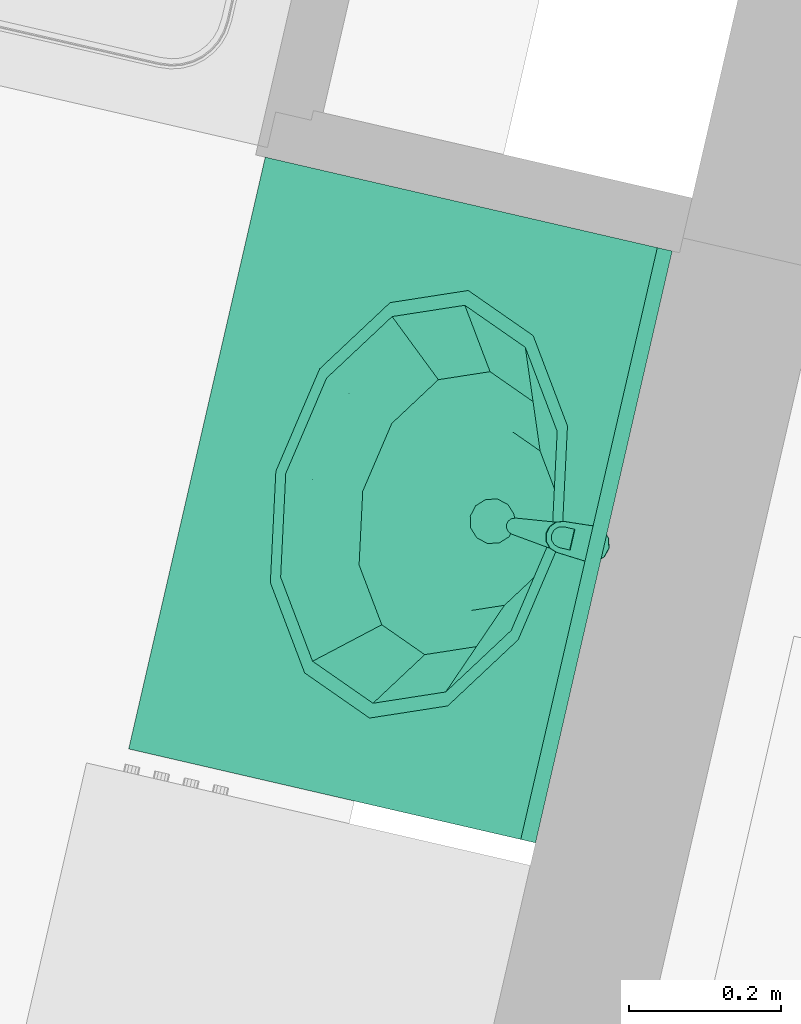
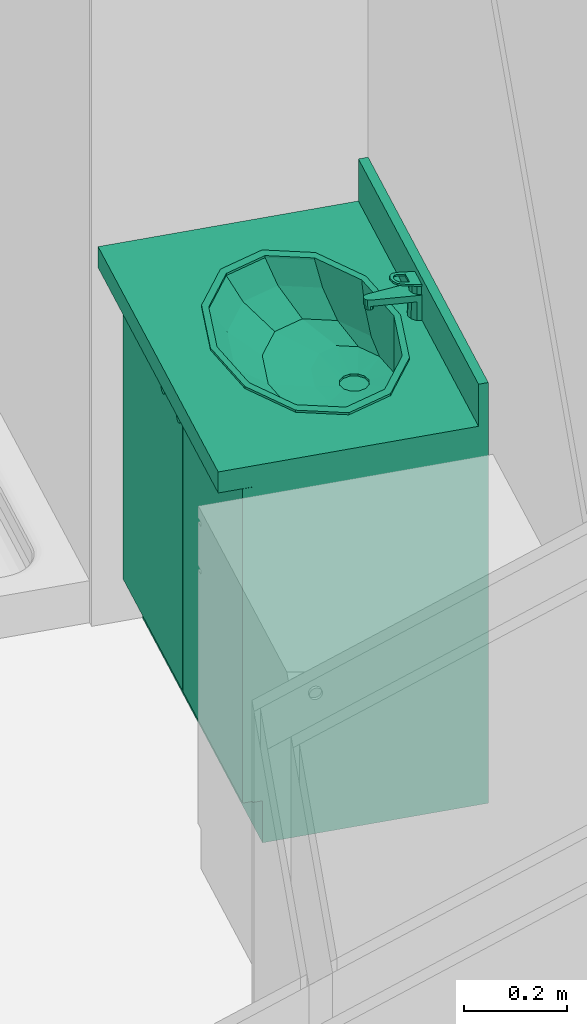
# One storey, part 99 of 119: 1 flow terminal.
"""IFC2X3 building model written with IfcOpenShell, lengths in metres."""

import ifcopenshell
import ifcopenshell.guid

model = None  # the IFC model being written
_history = None  # IfcOwnerHistory: only IFC2X3 demands one
_inside = {}  # id of a spatial element -> (the spatial element, [elements in it])
_under = {}  # id of a project, library or spatial element -> (it, [spatial elements below it])
_declared = {}  # id of a project -> (the project, [libraries it declares])
_typed = {}  # id of a type object -> (the type object, [elements of that type])
_made_of = {}  # id of a material, layer set ... -> (it, [elements and type objects made of it])


def new_model(schema):
    """Start an empty IFC model of exactly this schema.

    Asked for "IFC4X3", IfcOpenShell would pick the latest addendum, in which some entities
    have other attributes; the version numbers below select the first issue.
    IFC2X3 requires an IfcOwnerHistory on every rooted entity: one is made here for all.
    """
    global model, _history
    if schema == "IFC4X3":
        model = ifcopenshell.file(schema_version=(4, 3, 0, 0))
    else:
        model = ifcopenshell.file(schema=schema)
    _inside.clear()
    _under.clear()
    _declared.clear()
    _typed.clear()
    _made_of.clear()
    _history = None
    if model.schema == "IFC2X3":
        org = make("IfcOrganization", Name="unknown")
        user = make(
            "IfcPersonAndOrganization",
            ThePerson=make("IfcPerson", FamilyName="unknown"),
            TheOrganization=org,
        )
        app = make(
            "IfcApplication",
            ApplicationDeveloper=org,
            Version="unknown",
            ApplicationFullName="unknown",
            ApplicationIdentifier="unknown",
        )
        _history = make(
            "IfcOwnerHistory",
            OwningUser=user,
            OwningApplication=app,
            ChangeAction="ADDED",
            CreationDate=0,
        )
    return model


def make(cls, **values):
    """One entity of the class cls with the attributes given. An attribute that is None is left unset."""
    return model.create_entity(
        cls, **{name: value for name, value in values.items() if value is not None}
    )


def entity(cls, *values):
    """Any entity or typed value of the class cls, its attributes in the order of the schema. None: left unset."""
    e = model.create_entity(cls)
    for i, value in enumerate(values):
        if value is not None:
            e[i] = value
    return e


def rooted(cls, **values):
    """An entity with a GlobalId (a new one), such as an element, a storey or a relation."""
    return make(cls, GlobalId=ifcopenshell.guid.new(), OwnerHistory=_history, **values)


def si_unit(unit_type, name, prefix=None):
    """IfcSIUnit, for example si_unit("LENGTHUNIT", "METRE", prefix="MILLI")."""
    return make("IfcSIUnit", UnitType=unit_type, Prefix=prefix, Name=name)


def converted_unit(unit_type, name, factor, base, dimensions=None, offset=None):
    """IfcConversionBasedUnit, such as the inch: factor (a typed value) times the base unit."""
    return make(
        "IfcConversionBasedUnit"
        if offset is None
        else "IfcConversionBasedUnitWithOffset",
        ConversionOffset=offset,
        Dimensions=None
        if dimensions is None
        else entity("IfcDimensionalExponents", *dimensions),
        UnitType=unit_type,
        Name=name,
        ConversionFactor=make(
            "IfcMeasureWithUnit", ValueComponent=factor, UnitComponent=base
        ),
    )


def derived_unit(unit_type, elements):
    """IfcDerivedUnit: a product of units, each with its exponent."""
    return make(
        "IfcDerivedUnit",
        Elements=[
            make("IfcDerivedUnitElement", Unit=unit, Exponent=power)
            for unit, power in elements
        ],
        UnitType=unit_type,
    )


def money_unit(currency):
    """IfcMonetaryUnit."""
    return make("IfcMonetaryUnit", Currency=currency)


def assignment(units):
    """IfcUnitAssignment: the units of a project."""
    return None if units is None else make("IfcUnitAssignment", Units=units)


def point(xyz):
    """IfcCartesianPoint."""
    return None if xyz is None else make("IfcCartesianPoint", Coordinates=xyz)


def direction(xyz):
    """IfcDirection."""
    return None if xyz is None else make("IfcDirection", DirectionRatios=xyz)


def frame(location, z_axis=None, x_axis=None):
    """IfcAxis2Placement3D, a coordinate frame: its origin and axes. An axis left out is left unset."""
    return make(
        "IfcAxis2Placement3D",
        Location=point(location),
        Axis=direction(z_axis),
        RefDirection=direction(x_axis),
    )


def origin_with_axes():
    """The frame at (0, 0, 0) with the z axis (0, 0, 1) and the x axis (1, 0, 0) written out."""
    return frame((0.0, 0.0, 0.0), z_axis=(0.0, 0.0, 1.0), x_axis=(1.0, 0.0, 0.0))


def place(relative_to, where):
    """IfcLocalPlacement: puts the frame where relative to a parent placement (None: the world)."""
    return make(
        "IfcLocalPlacement", PlacementRelTo=relative_to, RelativePlacement=where
    )


def context(
    kind, dimensions, precision=None, world=None, true_north=None, identifier=None
):
    """IfcGeometricRepresentationContext, for example the 3D "Model" context."""
    return make(
        "IfcGeometricRepresentationContext",
        ContextIdentifier=identifier,
        ContextType=kind,
        CoordinateSpaceDimension=dimensions,
        Precision=precision,
        WorldCoordinateSystem=world,
        TrueNorth=true_north,
    )


def subcontext(parent, identifier, kind, view, scale=None):
    """IfcGeometricRepresentationSubContext, for example "Body" below "Model"."""
    return make(
        "IfcGeometricRepresentationSubContext",
        ContextIdentifier=identifier,
        ContextType=kind,
        ParentContext=parent,
        TargetScale=scale,
        TargetView=view,
    )


def project(units=None, contexts=None):
    """IfcProject with its units and contexts."""
    return rooted(
        "IfcProject",
        Name="project",
        RepresentationContexts=contexts,
        UnitsInContext=assignment(units),
    )


def spatial(cls, under=None, at=None, **own):
    """A site, building, storey or space (cls), placed at a placement, below another one or the project."""
    s = rooted(cls, ObjectPlacement=at, **own)
    if under is not None:
        _under.setdefault(under.id(), (under, []))[1].append(s)
    return s


def faces_of(points, faces, orient=None, outer=None):
    """IfcFace entities. A face is a list of loops; a loop is a list of indices into points, from 0.

    orient and outer hold one flag for each loop. By default every Orientation is true, the
    first loop of a face is its IfcFaceOuterBound and the others are IfcFaceBound.
    """
    made = []
    for i, loops in enumerate(faces):
        bounds = []
        for j, loop in enumerate(loops):
            is_outer = j == 0 if outer is None else outer[i][j]
            bounds.append(
                make(
                    "IfcFaceOuterBound" if is_outer else "IfcFaceBound",
                    Bound=make("IfcPolyLoop", Polygon=[points[k] for k in loop]),
                    Orientation=True if orient is None else orient[i][j],
                )
            )
        made.append(make("IfcFace", Bounds=bounds))
    return made


def open_shell(faces, orient=None, outer=None):
    """The faces of one IfcOpenShell. surface_model builds it on its shared points."""
    return ("IfcOpenShell", faces, orient, outer)


def faceted_brep(points, faces, orient=None, outer=None, voids=None):
    """IfcFacetedBrep: a solid bounded by flat faces; with voids (closed shells), ...WithVoids."""
    shared = [point(p) for p in points]
    hull = make("IfcClosedShell", CfsFaces=faces_of(shared, faces, orient, outer))
    if voids is None:
        return make("IfcFacetedBrep", Outer=hull)
    return make(
        "IfcFacetedBrepWithVoids",
        Outer=hull,
        Voids=[
            make(cls, CfsFaces=faces_of(shared, fs, o, b)) for cls, fs, o, b in voids
        ],
    )


def surface_model(cls, points, shells):
    """IfcFaceBasedSurfaceModel or IfcShellBasedSurfaceModel (cls): surfaces that need not close."""
    shared = [point(p) for p in points]
    made = [make(c, CfsFaces=faces_of(shared, fs, o, b)) for c, fs, o, b in shells]
    if cls == "IfcFaceBasedSurfaceModel":
        return make(cls, FbsmFaces=made)
    return make(cls, SbsmBoundary=made)


def shape(context_of_items, identifier, shape_type, items):
    """IfcShapeRepresentation: the items that make up one representation, for example the "Body"."""
    return make(
        "IfcShapeRepresentation",
        ContextOfItems=context_of_items,
        RepresentationIdentifier=identifier,
        RepresentationType=shape_type,
        Items=items,
    )


def source(mapping_origin, context_of_items, identifier, shape_type, items):
    """IfcRepresentationMap: a shape defined once, which mapped items show again and again."""
    return make(
        "IfcRepresentationMap",
        MappingOrigin=mapping_origin,
        MappedRepresentation=shape(context_of_items, identifier, shape_type, items),
    )


def transform(
    local_origin,
    x_axis=None,
    y_axis=None,
    z_axis=None,
    scale=None,
    scale2=None,
    scale3=None,
    uniform=True,
):
    """IfcCartesianTransformationOperator3D, or its non-uniform kind. x_axis, y_axis, z_axis: its Axis1, 2, 3."""
    if uniform:
        return make(
            "IfcCartesianTransformationOperator3D",
            Axis1=direction(x_axis),
            Axis2=direction(y_axis),
            LocalOrigin=point(local_origin),
            Scale=scale,
            Axis3=direction(z_axis),
        )
    return make(
        "IfcCartesianTransformationOperator3DnonUniform",
        Axis1=direction(x_axis),
        Axis2=direction(y_axis),
        LocalOrigin=point(local_origin),
        Scale=scale,
        Axis3=direction(z_axis),
        Scale2=scale2,
        Scale3=scale3,
    )


def mapped(mapping_source, mapping_target):
    """IfcMappedItem: shows the shape of a source again, moved by a transform."""
    return make(
        "IfcMappedItem", MappingSource=mapping_source, MappingTarget=mapping_target
    )


def made_of(thing, what):
    """Note that an element or type object is made of a material, layer set ...; save() writes the relation."""
    if what is not None:
        _made_of.setdefault(what.id(), (what, []))[1].append(thing)
    return thing


def type_object(cls, material=None, **own):
    """A type object (cls), such as IfcWallType, which elements share."""
    return made_of(rooted(cls, **own), material)


def element(
    cls,
    number,
    at=None,
    inside=None,
    cuts=None,
    type_object=None,
    material=None,
    context=None,
    identifier="Body",
    shape_type=None,
    held_by="IfcProductDefinitionShape",
    body=None,
    shapes=None,
    **own,
):
    """One element of the class cls, such as IfcWall. Its Tag is "e" and its number.

    at: its placement. inside: the storey or other place that contains it. cuts: it is an
    opening in that element (IfcRelVoidsElement). A single representation is given by context,
    identifier, shape_type and body (its items); several are given by shapes. held_by: the class
    of the entity that holds the representations. save() writes the other relations.
    """
    e = rooted(cls, Tag="e%d" % number, ObjectPlacement=at, **own)
    if body is not None:
        shapes = [shape(context, identifier, shape_type, body)]
    if shapes is not None:
        e.Representation = make(held_by, Representations=shapes)
    if inside is not None:
        _inside.setdefault(inside.id(), (inside, []))[1].append(e)
    if cuts is not None:
        rooted(
            "IfcRelVoidsElement", RelatingBuildingElement=cuts, RelatedOpeningElement=e
        )
    if type_object is not None:
        _typed.setdefault(type_object.id(), (type_object, []))[1].append(e)
    return made_of(e, material)


def aggregate(whole, parts):
    """IfcRelAggregates: a whole, such as a stair, and the parts it consists of."""
    return rooted("IfcRelAggregates", RelatingObject=whole, RelatedObjects=parts)


def save(model, path):
    """Write the relations noted so far, then the file.

    IfcRelAggregates (storeys below a building ...), IfcRelContainedInSpatialStructure (elements
    in a storey), IfcRelDefinesByType, IfcRelAssociatesMaterial and IfcRelDeclares: one each for
    every whole, place, type object, material and project.
    """
    for whole, parts in _under.values():
        aggregate(whole, parts)
    for where, things in _inside.values():
        rooted(
            "IfcRelContainedInSpatialStructure",
            RelatedElements=things,
            RelatingStructure=where,
        )
    for kind, things in _typed.values():
        rooted("IfcRelDefinesByType", RelatedObjects=things, RelatingType=kind)
    for what, things in _made_of.values():
        rooted("IfcRelAssociatesMaterial", RelatedObjects=things, RelatingMaterial=what)
    for by, libraries in _declared.values():
        rooted("IfcRelDeclares", RelatingContext=by, RelatedDefinitions=libraries)
    model.write(path)


model = new_model("IFC2X3")

# Units and contexts
model_context = context("Model", 3, precision=1e-05, world=origin_with_axes(), true_north=direction((0.0, 1.0)))
body_context = subcontext(model_context, "Body", "Model", "MODEL_VIEW")
ifc_project = project(units=[si_unit("LENGTHUNIT", "METRE"), si_unit("AREAUNIT", "SQUARE_METRE"), si_unit("VOLUMEUNIT", "CUBIC_METRE"), converted_unit("PLANEANGLEUNIT", "DEGREE", entity("IfcPlaneAngleMeasure", 0.0174532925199), si_unit("PLANEANGLEUNIT", "RADIAN"), dimensions=[0, 0, 0, 0, 0, 0, 0]), si_unit("SOLIDANGLEUNIT", "STERADIAN"), money_unit("EUR"), converted_unit("TIMEUNIT", "Year", entity("IfcTimeMeasure", 31556926.0), si_unit("TIMEUNIT", "SECOND"), dimensions=[0, 0, 1, 0, 0, 0, 0]), si_unit("MASSUNIT", "GRAM", prefix="KILO"), si_unit("THERMODYNAMICTEMPERATUREUNIT", "DEGREE_CELSIUS"), si_unit("LUMINOUSINTENSITYUNIT", "LUMEN"), si_unit("ENERGYUNIT", "JOULE", prefix="MEGA"), derived_unit("THERMALCONDUCTANCEUNIT", [(si_unit("POWERUNIT", "WATT"), 1), (si_unit("LENGTHUNIT", "METRE"), -1), (si_unit("THERMODYNAMICTEMPERATUREUNIT", "KELVIN"), -1)]), derived_unit("SPECIFICHEATCAPACITYUNIT", [(si_unit("ENERGYUNIT", "JOULE"), 1), (si_unit("MASSUNIT", "GRAM", prefix="KILO"), -1), (si_unit("THERMODYNAMICTEMPERATUREUNIT", "KELVIN"), -1)]), derived_unit("MASSDENSITYUNIT", [(si_unit("MASSUNIT", "GRAM", prefix="KILO"), 1), (si_unit("VOLUMEUNIT", "CUBIC_METRE"), -1)])], contexts=[model_context])

# Site, building, storey
site_placement = place(None, origin_with_axes())
site = spatial("IfcSite", under=ifc_project, at=site_placement, Name="Site", CompositionType="ELEMENT")
building_placement = place(site_placement, origin_with_axes())
building = spatial("IfcBuilding", under=site, at=building_placement, Name="Bâtiment", CompositionType="ELEMENT")
storey_placement = place(building_placement, origin_with_axes())
storey = spatial("IfcBuildingStorey", under=building, at=storey_placement, Name="Rez-de-chaussée", CompositionType="ELEMENT", Elevation=0.0)

# Flow terminal
sanitary_terminal_type = type_object("IfcSanitaryTerminalType", Name="Lavabo sur meuble 23", PredefinedType="NOTDEFINED")
shared_shape = source(origin_with_axes(), body_context, "Body", "SurfaceModel", [
    faceted_brep([(0.0, 0.09, 0.0), (0.0, 0.09, 0.1), (-0.8, 0.09, 0.1), (-0.8, 0.09, 0.0), (0.0, 0.55, 0.0), (0.0, 0.55, 0.1), (-0.8, 0.55, 0.1), (-0.8, 0.55, 0.0)], [[[0, 1, 2, 3]], [[4, 5, 1, 0]], [[1, 5, 6, 2]], [[3, 2, 6, 7]], [[0, 3, 7, 4]], [[7, 6, 5, 4]]]),
    faceted_brep([(0.0, 0.07, 0.1), (0.0, 0.07, 0.12), (-0.02, 0.07, 0.12), (-0.02, 0.07, 0.1), (0.0, 0.55, 0.1), (0.0, 0.55, 0.12), (-0.02, 0.55, 0.12), (-0.78, 0.55, 0.12), (-0.8, 0.55, 0.12), (-0.8, 0.07, 0.12), (-0.78, 0.07, 0.12), (-0.78, 0.07, 0.1), (-0.8, 0.07, 0.1), (-0.8, 0.55, 0.1), (-0.78, 0.55, 0.1), (-0.02, 0.55, 0.1)], [[[0, 1, 2, 3]], [[4, 5, 1, 0]], [[1, 5, 6, 7, 8, 9, 10, 2]], [[3, 2, 10, 11]], [[0, 3, 11, 12, 13, 14, 15, 4]], [[15, 6, 5, 4]], [[14, 7, 6, 15]], [[13, 8, 7, 14]], [[12, 9, 8, 13]], [[11, 10, 9, 12]]]),
    faceted_brep([(0.0, 0.07, 0.12), (0.0, 0.07, 0.85), (-0.02, 0.07, 0.85), (-0.02, 0.07, 0.12), (0.0, 0.55, 0.12), (0.0, 0.55, 0.85), (-0.8, 0.55, 0.85), (-0.8, 0.07, 0.85), (-0.78, 0.07, 0.85), (-0.78, 0.53, 0.85), (-0.02, 0.53, 0.85), (-0.02, 0.53, 0.12), (-0.78, 0.53, 0.12), (-0.78, 0.07, 0.12), (-0.8, 0.07, 0.12), (-0.8, 0.55, 0.12)], [[[0, 1, 2, 3]], [[4, 5, 1, 0]], [[1, 5, 6, 7, 8, 9, 10, 2]], [[3, 2, 10, 11]], [[0, 3, 11, 12, 13, 14, 15, 4]], [[15, 6, 5, 4]], [[14, 7, 6, 15]], [[13, 8, 7, 14]], [[12, 9, 8, 13]], [[11, 10, 9, 12]]]),
    faceted_brep([(-0.78, 0.07, 0.323333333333), (-0.78, 0.07, 0.343333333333), (-0.78, 0.53, 0.343333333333), (-0.78, 0.53, 0.323333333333), (-0.02, 0.07, 0.323333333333), (-0.02, 0.07, 0.343333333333), (-0.02, 0.53, 0.343333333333), (-0.02, 0.53, 0.323333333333)], [[[0, 1, 2, 3]], [[4, 5, 1, 0]], [[1, 5, 6, 2]], [[3, 2, 6, 7]], [[0, 3, 7, 4]], [[7, 6, 5, 4]]]),
    faceted_brep([(-0.78, 0.07, 0.566666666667), (-0.78, 0.07, 0.586666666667), (-0.78, 0.53, 0.586666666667), (-0.78, 0.53, 0.566666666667), (-0.02, 0.07, 0.566666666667), (-0.02, 0.07, 0.586666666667), (-0.02, 0.53, 0.586666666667), (-0.02, 0.53, 0.566666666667)], [[[0, 1, 2, 3]], [[4, 5, 1, 0]], [[1, 5, 6, 2]], [[3, 2, 6, 7]], [[0, 3, 7, 4]], [[7, 6, 5, 4]]]),
    faceted_brep([(0.0, 0.55, 0.85), (0.0, 0.0, 0.85), (-0.8, 0.0, 0.85), (-0.8, 0.55, 0.85), (-0.535, 0.144115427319, 0.85), (-0.4, 0.12, 0.85), (-0.265, 0.144115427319, 0.85), (-0.166173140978, 0.21, 0.85), (-0.13, 0.3, 0.85), (-0.166173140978, 0.39, 0.85), (-0.265, 0.455884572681, 0.85), (-0.4, 0.48, 0.85), (-0.535, 0.455884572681, 0.85), (-0.633826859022, 0.39, 0.85), (-0.67, 0.3, 0.85), (-0.633826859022, 0.21, 0.85), (0.0, 0.55, 0.9), (0.0, 0.0, 0.9), (-0.8, 0.0, 0.9), (-0.8, 0.55, 0.9), (-0.4, 0.12, 0.9), (-0.535, 0.144115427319, 0.9), (-0.265, 0.144115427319, 0.9), (-0.166173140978, 0.21, 0.9), (-0.13, 0.3, 0.9), (-0.166173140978, 0.39, 0.9), (-0.265, 0.455884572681, 0.9), (-0.4, 0.48, 0.9), (-0.535, 0.455884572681, 0.9), (-0.633826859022, 0.39, 0.9), (-0.67, 0.3, 0.9), (-0.633826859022, 0.21, 0.9)], [[[0, 1, 2, 3], [4, 5, 6, 7, 8, 9, 10, 11, 12, 13, 14, 15]], [[1, 0, 16, 17]], [[2, 1, 17, 18]], [[3, 2, 18, 19]], [[0, 3, 19, 16]], [[20, 5, 4, 21]], [[22, 6, 5, 20]], [[23, 7, 6, 22]], [[24, 8, 7, 23]], [[25, 9, 8, 24]], [[26, 10, 9, 25]], [[27, 11, 10, 26]], [[28, 12, 11, 27]], [[29, 13, 12, 28]], [[30, 14, 13, 29]], [[31, 15, 14, 30]], [[21, 4, 15, 31]], [[18, 17, 16, 19], [28, 27, 26, 25, 24, 23, 22, 20, 21, 31, 30, 29]]]),
    faceted_brep([(0.0, 0.53, 0.9), (0.0, 0.53, 1.0), (-0.8, 0.53, 1.0), (-0.8, 0.53, 0.9), (0.0, 0.55, 0.9), (0.0, 0.55, 1.0), (-0.8, 0.55, 1.0), (-0.8, 0.55, 0.9)], [[[0, 1, 2, 3]], [[4, 5, 1, 0]], [[1, 5, 6, 2]], [[3, 2, 6, 7]], [[0, 3, 7, 4]], [[7, 6, 5, 4]]]),
    faceted_brep([(-0.689, 0.3, 0.905), (-0.650281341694, 0.396691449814, 0.905), (-0.650281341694, 0.396691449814, 0.9), (-0.689, 0.3, 0.9), (-0.650281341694, 0.203308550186, 0.905), (-0.5445, 0.132525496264, 0.905), (-0.4, 0.106617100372, 0.905), (-0.2555, 0.132525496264, 0.905), (-0.149718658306, 0.203308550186, 0.905), (-0.111, 0.3, 0.905), (-0.149718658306, 0.396691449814, 0.905), (-0.2555, 0.467474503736, 0.905), (-0.4, 0.493382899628, 0.905), (-0.5445, 0.467474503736, 0.905), (-0.669, 0.3, 0.905), (-0.632960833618, 0.39, 0.905), (-0.5345, 0.455884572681, 0.905), (-0.4, 0.48, 0.905), (-0.2655, 0.455884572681, 0.905), (-0.167039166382, 0.39, 0.905), (-0.131, 0.3, 0.905), (-0.167039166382, 0.21, 0.905), (-0.2655, 0.144115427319, 0.905), (-0.4, 0.12, 0.905), (-0.5345, 0.144115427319, 0.905), (-0.632960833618, 0.21, 0.905), (-0.5445, 0.467474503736, 0.9), (-0.4, 0.493382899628, 0.9), (-0.2555, 0.467474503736, 0.9), (-0.149718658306, 0.396691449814, 0.9), (-0.111, 0.3, 0.9), (-0.149718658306, 0.203308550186, 0.9), (-0.2555, 0.132525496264, 0.9), (-0.4, 0.106617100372, 0.9), (-0.5445, 0.132525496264, 0.9), (-0.650281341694, 0.203308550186, 0.9), (-0.669, 0.3, 0.9), (-0.632960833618, 0.21, 0.9), (-0.5345, 0.144115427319, 0.9), (-0.4, 0.12, 0.9), (-0.2655, 0.144115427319, 0.9), (-0.167039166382, 0.21, 0.9), (-0.131, 0.3, 0.9), (-0.167039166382, 0.39, 0.9), (-0.2655, 0.455884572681, 0.9), (-0.4, 0.48, 0.9), (-0.5345, 0.455884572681, 0.9), (-0.632960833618, 0.39, 0.9)], [[[0, 1, 2, 3]], [[0, 4, 5, 6, 7, 8, 9, 10, 11, 12, 13, 1], [14, 15, 16, 17, 18, 19, 20, 21, 22, 23, 24, 25]], [[1, 13, 26, 2]], [[3, 2, 26, 27, 28, 29, 30, 31, 32, 33, 34, 35], [36, 37, 38, 39, 40, 41, 42, 43, 44, 45, 46, 47]], [[4, 0, 3, 35]], [[5, 4, 35, 34]], [[6, 5, 34, 33]], [[7, 6, 33, 32]], [[8, 7, 32, 31]], [[9, 8, 31, 30]], [[10, 9, 30, 29]], [[11, 10, 29, 28]], [[12, 11, 28, 27]], [[13, 12, 27, 26]], [[15, 14, 36, 47]], [[16, 15, 47, 46]], [[17, 16, 46, 45]], [[18, 17, 45, 44]], [[19, 18, 44, 43]], [[20, 19, 43, 42]], [[21, 20, 42, 41]], [[22, 21, 41, 40]], [[23, 22, 40, 39]], [[24, 23, 39, 38]], [[25, 24, 38, 37]], [[14, 25, 37, 36]]]),
    surface_model("IfcShellBasedSurfaceModel", [(-0.4, 0.48, 0.9), (-0.5345, 0.455884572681, 0.9), (-0.52105, 0.458296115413, 0.848), (-0.4, 0.48, 0.848), (-0.632960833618, 0.39, 0.9), (-0.609664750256, 0.399, 0.848), (-0.2655, 0.455884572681, 0.9), (-0.27895, 0.458296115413, 0.848), (-0.669, 0.3, 0.9), (-0.6421, 0.318, 0.848), (-0.167039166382, 0.39, 0.9), (-0.190335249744, 0.399, 0.848), (-0.632960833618, 0.21, 0.9), (-0.609664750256, 0.237, 0.848), (-0.131, 0.3, 0.9), (-0.1579, 0.318, 0.848), (-0.5345, 0.144115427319, 0.9), (-0.52105, 0.177703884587, 0.848), (-0.167039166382, 0.21, 0.9), (-0.190335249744, 0.237, 0.848), (-0.4, 0.12, 0.9), (-0.4, 0.156, 0.848), (-0.2655, 0.144115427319, 0.9), (-0.27895, 0.177703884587, 0.848)], [open_shell([[[0, 1, 2, 3]], [[1, 4, 5, 2]], [[6, 0, 3, 7]], [[4, 8, 9, 5]], [[10, 6, 7, 11]], [[8, 12, 13, 9]], [[14, 10, 11, 15]], [[12, 16, 17, 13]], [[18, 14, 15, 19]], [[16, 20, 21, 17]], [[22, 18, 19, 23]], [[20, 22, 23, 21]]])]),
    surface_model("IfcShellBasedSurfaceModel", [(-0.4, 0.48, 0.848), (-0.52105, 0.458296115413, 0.848), (-0.4956295, 0.462853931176, 0.796), (-0.4, 0.48, 0.796), (-0.609664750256, 0.399, 0.848), (-0.565635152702, 0.41601, 0.796), (-0.27895, 0.458296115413, 0.848), (-0.3043705, 0.462853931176, 0.796), (-0.6421, 0.318, 0.848), (-0.591259, 0.35202, 0.796), (-0.190335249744, 0.399, 0.848), (-0.234364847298, 0.41601, 0.796), (-0.609664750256, 0.237, 0.848), (-0.565635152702, 0.28803, 0.796), (-0.1579, 0.318, 0.848), (-0.208741, 0.35202, 0.796), (-0.52105, 0.177703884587, 0.848), (-0.4956295, 0.241186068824, 0.796), (-0.190335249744, 0.237, 0.848), (-0.234364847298, 0.28803, 0.796), (-0.4, 0.156, 0.848), (-0.4, 0.22404, 0.796), (-0.27895, 0.177703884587, 0.848), (-0.3043705, 0.241186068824, 0.796)], [open_shell([[[0, 1, 2, 3]], [[1, 4, 5, 2]], [[6, 0, 3, 7]], [[4, 8, 9, 5]], [[10, 6, 7, 11]], [[8, 12, 13, 9]], [[14, 10, 11, 15]], [[12, 16, 17, 13]], [[18, 14, 15, 19]], [[16, 20, 21, 17]], [[22, 18, 19, 23]], [[20, 22, 23, 21]]])]),
    surface_model("IfcShellBasedSurfaceModel", [(-0.4, 0.48, 0.796), (-0.4956295, 0.462853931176, 0.796), (-0.460246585, 0.469197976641, 0.77), (-0.4, 0.48, 0.77), (-0.565635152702, 0.41601, 0.796), (-0.504350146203, 0.4396863, 0.77), (-0.3043705, 0.462853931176, 0.796), (-0.339753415, 0.469197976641, 0.77), (-0.591259, 0.35202, 0.796), (-0.52049317, 0.3993726, 0.77), (-0.234364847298, 0.41601, 0.796), (-0.295649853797, 0.4396863, 0.77), (-0.565635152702, 0.28803, 0.796), (-0.504350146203, 0.3590589, 0.77), (-0.208741, 0.35202, 0.796), (-0.27950683, 0.3993726, 0.77), (-0.4956295, 0.241186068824, 0.796), (-0.460246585, 0.329547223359, 0.77), (-0.234364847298, 0.28803, 0.796), (-0.295649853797, 0.3590589, 0.77), (-0.4, 0.22404, 0.796), (-0.4, 0.3187452, 0.77), (-0.3043705, 0.241186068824, 0.796), (-0.339753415, 0.329547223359, 0.77)], [open_shell([[[0, 1, 2, 3]], [[1, 4, 5, 2]], [[6, 0, 3, 7]], [[4, 8, 9, 5]], [[10, 6, 7, 11]], [[8, 12, 13, 9]], [[14, 10, 11, 15]], [[12, 16, 17, 13]], [[18, 14, 15, 19]], [[16, 20, 21, 17]], [[22, 18, 19, 23]], [[20, 22, 23, 21]]])]),
    surface_model("IfcShellBasedSurfaceModel", [(-0.4, 0.48, 0.77), (-0.460246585, 0.469197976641, 0.77), (-0.415, 0.425353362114, 0.763), (-0.425980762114, 0.4143726, 0.763), (-0.4, 0.4293726, 0.763), (-0.504350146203, 0.4396863, 0.77), (-0.339753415, 0.469197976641, 0.77), (-0.43, 0.3993726, 0.763), (-0.385, 0.425353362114, 0.763), (-0.52049317, 0.3993726, 0.77), (-0.295649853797, 0.4396863, 0.77), (-0.425980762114, 0.3843726, 0.763), (-0.374019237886, 0.4143726, 0.763), (-0.504350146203, 0.3590589, 0.77), (-0.27950683, 0.3993726, 0.77), (-0.415, 0.373391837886, 0.763), (-0.37, 0.3993726, 0.763), (-0.460246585, 0.329547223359, 0.77), (-0.295649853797, 0.3590589, 0.77), (-0.4, 0.3693726, 0.763), (-0.374019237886, 0.3843726, 0.763), (-0.4, 0.3187452, 0.77), (-0.339753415, 0.329547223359, 0.77), (-0.385, 0.373391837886, 0.763)], [open_shell([[[0, 1, 2]], [[1, 3, 2]], [[0, 2, 4]], [[1, 5, 3]], [[6, 0, 4]], [[5, 7, 3]], [[6, 4, 8]], [[5, 9, 7]], [[10, 6, 8]], [[9, 11, 7]], [[10, 8, 12]], [[9, 13, 11]], [[14, 10, 12]], [[13, 15, 11]], [[14, 12, 16]], [[13, 17, 15]], [[18, 14, 16]], [[17, 19, 15]], [[18, 16, 20]], [[17, 21, 19]], [[22, 18, 20]], [[21, 23, 19]], [[22, 20, 23]], [[21, 22, 23]]])]),
    surface_model("IfcShellBasedSurfaceModel", [(-0.43, 0.3993726, 0.763), (-0.425980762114, 0.4143726, 0.763), (-0.425980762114, 0.4143726, 0.758), (-0.43, 0.3993726, 0.758), (-0.415, 0.425353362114, 0.763), (-0.415, 0.425353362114, 0.758), (-0.4, 0.4293726, 0.758), (-0.385, 0.425353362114, 0.758), (-0.374019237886, 0.4143726, 0.758), (-0.37, 0.3993726, 0.758), (-0.374019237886, 0.3843726, 0.758), (-0.385, 0.373391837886, 0.758), (-0.4, 0.3693726, 0.758), (-0.415, 0.373391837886, 0.758), (-0.425980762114, 0.3843726, 0.758), (-0.425980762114, 0.3843726, 0.763), (-0.4, 0.4293726, 0.763), (-0.385, 0.425353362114, 0.763), (-0.374019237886, 0.4143726, 0.763), (-0.37, 0.3993726, 0.763), (-0.374019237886, 0.3843726, 0.763), (-0.385, 0.373391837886, 0.763), (-0.4, 0.3693726, 0.763), (-0.415, 0.373391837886, 0.763)], [open_shell([[[0, 1, 2, 3]], [[1, 4, 5, 2]], [[3, 2, 5, 6, 7, 8, 9, 10, 11, 12, 13, 14]], [[15, 0, 3, 14]], [[4, 16, 6, 5]], [[16, 17, 7, 6]], [[17, 18, 8, 7]], [[18, 19, 9, 8]], [[19, 20, 10, 9]], [[20, 21, 11, 10]], [[21, 22, 12, 11]], [[22, 23, 13, 12]], [[23, 15, 14, 13]]])]),
    faceted_brep([(-0.4125, 0.554150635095, 0.9), (-0.410587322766, 0.550837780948, 0.976507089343), (-0.4, 0.553701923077, 0.975961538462), (-0.4, 0.5575, 0.9), (-0.421650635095, 0.545, 0.9), (-0.418273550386, 0.543050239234, 0.977990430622), (-0.421, 0.5325, 0.98), (-0.418100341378, 0.522049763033, 0.981990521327), (-0.410414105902, 0.514462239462, 0.983435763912), (-0.4, 0.511698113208, 0.983962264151), (-0.389585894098, 0.514462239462, 0.983435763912), (-0.381899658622, 0.522049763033, 0.981990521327), (-0.379, 0.5325, 0.98), (-0.381726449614, 0.543050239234, 0.977990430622), (-0.389412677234, 0.550837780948, 0.976507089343), (-0.3875, 0.554150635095, 0.9), (-0.378349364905, 0.545, 0.9), (-0.375, 0.5325, 0.9), (-0.378349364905, 0.52, 0.9), (-0.3875, 0.510849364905, 0.9), (-0.4, 0.5075, 0.9), (-0.4125, 0.510849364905, 0.9), (-0.421650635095, 0.52, 0.9), (-0.425, 0.5325, 0.9)], [[[0, 1, 2, 3]], [[4, 5, 1, 0]], [[1, 5, 6, 7, 8, 9, 10, 11, 12, 13, 14, 2]], [[3, 2, 14, 15]], [[0, 3, 15, 16, 17, 18, 19, 20, 21, 22, 23, 4]], [[23, 6, 5, 4]], [[22, 7, 6, 23]], [[21, 8, 7, 22]], [[20, 9, 8, 21]], [[19, 10, 9, 20]], [[18, 11, 10, 19]], [[17, 12, 11, 18]], [[16, 13, 12, 17]], [[15, 14, 13, 16]]]),
    faceted_brep([(-0.409, 0.4295, 0.935), (-0.409, 0.4295, 0.945), (-0.407794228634, 0.434, 0.945), (-0.407794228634, 0.434, 0.935), (-0.407794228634, 0.425, 0.935), (-0.407794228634, 0.425, 0.945), (-0.4045, 0.421705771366, 0.945), (-0.4, 0.4205, 0.945), (-0.3955, 0.421705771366, 0.945), (-0.392205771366, 0.425, 0.945), (-0.391, 0.4295, 0.945), (-0.392205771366, 0.434, 0.945), (-0.3955, 0.437294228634, 0.945), (-0.4, 0.4385, 0.945), (-0.4045, 0.437294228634, 0.945), (-0.4045, 0.437294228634, 0.935), (-0.4, 0.4385, 0.935), (-0.3955, 0.437294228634, 0.935), (-0.392205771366, 0.434, 0.935), (-0.391, 0.4295, 0.935), (-0.392205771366, 0.425, 0.935), (-0.3955, 0.421705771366, 0.935), (-0.4, 0.4205, 0.935), (-0.4045, 0.421705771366, 0.935)], [[[0, 1, 2, 3]], [[4, 5, 1, 0]], [[1, 5, 6, 7, 8, 9, 10, 11, 12, 13, 14, 2]], [[3, 2, 14, 15]], [[0, 3, 15, 16, 17, 18, 19, 20, 21, 22, 23, 4]], [[23, 6, 5, 4]], [[22, 7, 6, 23]], [[21, 8, 7, 22]], [[20, 9, 8, 21]], [[19, 10, 9, 20]], [[18, 11, 10, 19]], [[17, 12, 11, 18]], [[16, 13, 12, 17]], [[15, 14, 13, 16]]]),
    faceted_brep([(-0.387128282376, 0.552756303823, 0.96), (-0.40000000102, 0.556499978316, 0.96), (-0.412871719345, 0.552756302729, 0.96), (-0.421727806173, 0.542693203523, 0.96), (-0.423805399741, 0.529450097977, 0.96), (-0.410912, 0.4281117, 0.96), (-0.409028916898, 0.423216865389, 0.96), (-0.405093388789, 0.419750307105, 0.96), (-0.400000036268, 0.41850003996, 0.96), (-0.394906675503, 0.419750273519, 0.96), (-0.390971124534, 0.423216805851, 0.96), (-0.389088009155, 0.428111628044, 0.96), (-0.3761946, 0.5294501, 0.96), (-0.378272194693, 0.54269320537, 0.96), (-0.411, 0.551552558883, 0.96), (-0.4, 0.5545, 0.96), (-0.389, 0.551552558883, 0.96), (-0.380947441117, 0.5435, 0.96), (-0.378, 0.5325, 0.96), (-0.380947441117, 0.5215, 0.96), (-0.389, 0.513447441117, 0.96), (-0.4, 0.5105, 0.96), (-0.411, 0.513447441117, 0.96), (-0.419052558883, 0.5215, 0.96), (-0.422, 0.5325, 0.96), (-0.419052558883, 0.5435, 0.96), (-0.387128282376, 0.552756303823, 0.945), (-0.40000000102, 0.556499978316, 0.945), (-0.412871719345, 0.552756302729, 0.945), (-0.421727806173, 0.542693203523, 0.945), (-0.423805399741, 0.529450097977, 0.945), (-0.410912, 0.4281117, 0.945), (-0.409028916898, 0.423216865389, 0.945), (-0.405093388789, 0.419750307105, 0.945), (-0.400000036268, 0.41850003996, 0.945), (-0.394906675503, 0.419750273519, 0.945), (-0.390971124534, 0.423216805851, 0.945), (-0.389088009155, 0.428111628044, 0.945), (-0.3761946, 0.5294501, 0.945), (-0.378272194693, 0.54269320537, 0.945), (-0.4, 0.55525, 0.945), (-0.411375, 0.552202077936, 0.945), (-0.388625, 0.552202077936, 0.945), (-0.380297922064, 0.543875, 0.945), (-0.37725, 0.5325, 0.945), (-0.380297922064, 0.521125, 0.945), (-0.388625, 0.512797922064, 0.945), (-0.4, 0.50975, 0.945), (-0.411375, 0.512797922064, 0.945), (-0.419702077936, 0.521125, 0.945), (-0.42275, 0.5325, 0.945), (-0.419702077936, 0.543875, 0.945)], [[[0, 1, 2, 3, 4, 5, 6, 7, 8, 9, 10, 11, 12, 13], [14, 15, 16, 17, 18, 19, 20, 21, 22, 23, 24, 25]], [[26, 27, 1, 0]], [[27, 28, 2, 1]], [[28, 29, 3, 2]], [[29, 30, 4, 3]], [[30, 31, 5, 4]], [[31, 32, 6, 5]], [[32, 33, 7, 6]], [[33, 34, 8, 7]], [[34, 35, 9, 8]], [[35, 36, 10, 9]], [[36, 37, 11, 10]], [[37, 38, 12, 11]], [[38, 39, 13, 12]], [[39, 26, 0, 13]], [[40, 15, 14, 41]], [[42, 16, 15, 40]], [[16, 42, 43, 17]], [[17, 43, 44, 18]], [[18, 44, 45, 19]], [[19, 45, 46, 20]], [[20, 46, 47, 21]], [[48, 22, 21, 47]], [[49, 23, 22, 48]], [[50, 24, 23, 49]], [[51, 25, 24, 50]], [[41, 14, 25, 51]], [[34, 33, 32, 31, 30, 29, 28, 27, 26, 39, 38, 37, 36, 35], [48, 47, 46, 45, 44, 43, 42, 40, 41, 51, 50, 49]]]),
    faceted_brep([(-0.423893, 0.53080743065, 0.980322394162), (-0.423893, 0.531555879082, 0.984251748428), (-0.421296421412, 0.544023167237, 0.981877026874), (-0.421296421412, 0.543274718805, 0.977947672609), (-0.420945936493, 0.490663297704, 0.987968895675), (-0.420945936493, 0.491411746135, 0.991898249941), (-0.417663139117, 0.48173408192, 0.993741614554), (-0.410061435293, 0.47478470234, 0.995065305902), (-0.399999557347, 0.472262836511, 0.995545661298), (-0.389937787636, 0.474785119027, 0.995065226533), (-0.382336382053, 0.481734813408, 0.993741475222), (-0.379054, 0.491412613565, 0.991898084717), (-0.376106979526, 0.531556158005, 0.984251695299), (-0.378703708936, 0.544023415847, 0.98187697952), (-0.38752831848, 0.553339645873, 0.980102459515), (-0.400000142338, 0.556780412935, 0.979447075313), (-0.41247192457, 0.553339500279, 0.980102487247), (-0.414, 0.507707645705, 0.988794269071), (-0.386, 0.507707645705, 0.988794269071), (-0.386, 0.492892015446, 0.991616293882), (-0.387875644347, 0.486015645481, 0.992926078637), (-0.393, 0.480981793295, 0.993884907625), (-0.4, 0.479139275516, 0.994235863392), (-0.407, 0.480981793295, 0.993884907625), (-0.412124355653, 0.486015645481, 0.992926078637), (-0.414, 0.492892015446, 0.991616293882), (-0.41247192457, 0.552591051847, 0.976173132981), (-0.400000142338, 0.556031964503, 0.975517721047), (-0.38752831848, 0.552591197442, 0.976173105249), (-0.378703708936, 0.543274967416, 0.977947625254), (-0.376106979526, 0.530807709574, 0.980322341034), (-0.379054, 0.490664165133, 0.987968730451), (-0.382336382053, 0.480986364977, 0.989812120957), (-0.389937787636, 0.474036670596, 0.991135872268), (-0.399999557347, 0.47151438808, 0.991616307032), (-0.410061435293, 0.474036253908, 0.991135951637), (-0.417663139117, 0.480985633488, 0.989812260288), (-0.414, 0.506959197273, 0.984864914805), (-0.414, 0.492143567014, 0.987686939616), (-0.412124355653, 0.485267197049, 0.988996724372), (-0.407, 0.480233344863, 0.989955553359), (-0.4, 0.478390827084, 0.990306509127), (-0.393, 0.480233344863, 0.989955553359), (-0.387875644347, 0.485267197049, 0.988996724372), (-0.386, 0.492143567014, 0.987686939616), (-0.386, 0.506959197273, 0.984864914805)], [[[0, 1, 2, 3]], [[4, 5, 1, 0]], [[1, 5, 6, 7, 8, 9, 10, 11, 12, 13, 14, 15, 16, 2], [17, 18, 19, 20, 21, 22, 23, 24, 25]], [[3, 2, 16, 26]], [[0, 3, 26, 27, 28, 29, 30, 31, 32, 33, 34, 35, 36, 4], [37, 38, 39, 40, 41, 42, 43, 44, 45]], [[36, 6, 5, 4]], [[35, 7, 6, 36]], [[34, 8, 7, 35]], [[33, 9, 8, 34]], [[32, 10, 9, 33]], [[31, 11, 10, 32]], [[30, 12, 11, 31]], [[29, 13, 12, 30]], [[28, 14, 13, 29]], [[27, 15, 14, 28]], [[26, 16, 15, 27]], [[45, 18, 17, 37]], [[44, 19, 18, 45]], [[43, 20, 19, 44]], [[42, 21, 20, 43]], [[41, 22, 21, 42]], [[40, 23, 22, 41]], [[39, 24, 23, 40]], [[38, 25, 24, 39]], [[37, 17, 25, 38]]]),
    faceted_brep([(-0.0015, 0.07, 0.1015), (-0.0015, 0.05, 0.1015), (-0.3985, 0.05, 0.1015), (-0.3985, 0.07, 0.1015), (-0.0015, 0.07, 0.8485), (-0.0015, 0.05, 0.8485), (-0.3985, 0.05, 0.8485), (-0.3985, 0.07, 0.8485)], [[[0, 1, 2, 3]], [[4, 5, 1, 0]], [[1, 5, 6, 2]], [[3, 2, 6, 7]], [[0, 3, 7, 4]], [[7, 6, 5, 4]]]),
    faceted_brep([(-0.358892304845, 0.05, 0.7855), (-0.3605, 0.05, 0.7915), (-0.358892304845, 0.05, 0.7975), (-0.3545, 0.05, 0.801892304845), (-0.3485, 0.05, 0.8035), (-0.3425, 0.05, 0.801892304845), (-0.338107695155, 0.05, 0.7975), (-0.3365, 0.05, 0.7915), (-0.338107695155, 0.05, 0.7855), (-0.3425, 0.05, 0.781107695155), (-0.3485, 0.05, 0.7795), (-0.3545, 0.05, 0.781107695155), (-0.358892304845, 0.025, 0.7855), (-0.3605, 0.025, 0.7915), (-0.358892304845, 0.025, 0.7975), (-0.3545, 0.025, 0.801892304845), (-0.3485, 0.025, 0.8035), (-0.3425, 0.025, 0.801892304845), (-0.338107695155, 0.025, 0.7975), (-0.3365, 0.025, 0.7915), (-0.338107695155, 0.025, 0.7855), (-0.3425, 0.025, 0.781107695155), (-0.3485, 0.025, 0.7795), (-0.3545, 0.025, 0.781107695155)], [[[0, 1, 2, 3, 4, 5, 6, 7, 8, 9, 10, 11]], [[0, 12, 13, 1]], [[1, 13, 14, 2]], [[2, 14, 15, 3]], [[3, 15, 16, 4]], [[4, 16, 17, 5]], [[5, 17, 18, 6]], [[6, 18, 19, 7]], [[7, 19, 20, 8]], [[8, 20, 21, 9]], [[9, 21, 22, 10]], [[10, 22, 23, 11]], [[11, 23, 12, 0]], [[12, 23, 22, 21, 20, 19, 18, 17, 16, 15, 14, 13]]]),
    faceted_brep([(-0.7985, 0.07, 0.1015), (-0.4015, 0.07, 0.1015), (-0.4015, 0.05, 0.1015), (-0.7985, 0.05, 0.1015), (-0.7985, 0.07, 0.8485), (-0.4015, 0.07, 0.8485), (-0.4015, 0.05, 0.8485), (-0.7985, 0.05, 0.8485)], [[[0, 1, 2, 3]], [[0, 4, 5, 1]], [[1, 5, 6, 2]], [[3, 2, 6, 7]], [[4, 0, 3, 7]], [[5, 4, 7, 6]]]),
    faceted_brep([(-0.441107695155, 0.05, 0.7855), (-0.4455, 0.05, 0.781107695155), (-0.4515, 0.05, 0.7795), (-0.4575, 0.05, 0.781107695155), (-0.461892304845, 0.05, 0.7855), (-0.4635, 0.05, 0.7915), (-0.461892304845, 0.05, 0.7975), (-0.4575, 0.05, 0.801892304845), (-0.4515, 0.05, 0.8035), (-0.4455, 0.05, 0.801892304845), (-0.441107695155, 0.05, 0.7975), (-0.4395, 0.05, 0.7915), (-0.441107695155, 0.025, 0.7855), (-0.4455, 0.025, 0.781107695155), (-0.4515, 0.025, 0.7795), (-0.4575, 0.025, 0.781107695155), (-0.461892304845, 0.025, 0.7855), (-0.4635, 0.025, 0.7915), (-0.461892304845, 0.025, 0.7975), (-0.4575, 0.025, 0.801892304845), (-0.4515, 0.025, 0.8035), (-0.4455, 0.025, 0.801892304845), (-0.441107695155, 0.025, 0.7975), (-0.4395, 0.025, 0.7915)], [[[0, 1, 2, 3, 4, 5, 6, 7, 8, 9, 10, 11]], [[1, 0, 12, 13]], [[2, 1, 13, 14]], [[3, 2, 14, 15]], [[4, 3, 15, 16]], [[5, 4, 16, 17]], [[6, 5, 17, 18]], [[7, 6, 18, 19]], [[8, 7, 19, 20]], [[9, 8, 20, 21]], [[10, 9, 21, 22]], [[11, 10, 22, 23]], [[0, 11, 23, 12]], [[12, 23, 22, 21, 20, 19, 18, 17, 16, 15, 14, 13]]]),
])
flow_terminal_placement = place(storey_placement, frame((-11.3098303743, 0.742763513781, 0.0), z_axis=(0.0, 0.0, 1.0), x_axis=(-0.224876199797, -0.974387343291, 0.0)))
element("IfcFlowTerminal", 1, at=flow_terminal_placement, inside=storey, type_object=sanitary_terminal_type, Name="MOB-002", ObjectType="SANITARY_TERMINAL", context=body_context, shape_type="MappedRepresentation", body=[
    mapped(shared_shape, transform((0.0, 0.0, 0.0))),
])

save(model, "model.ifc")
